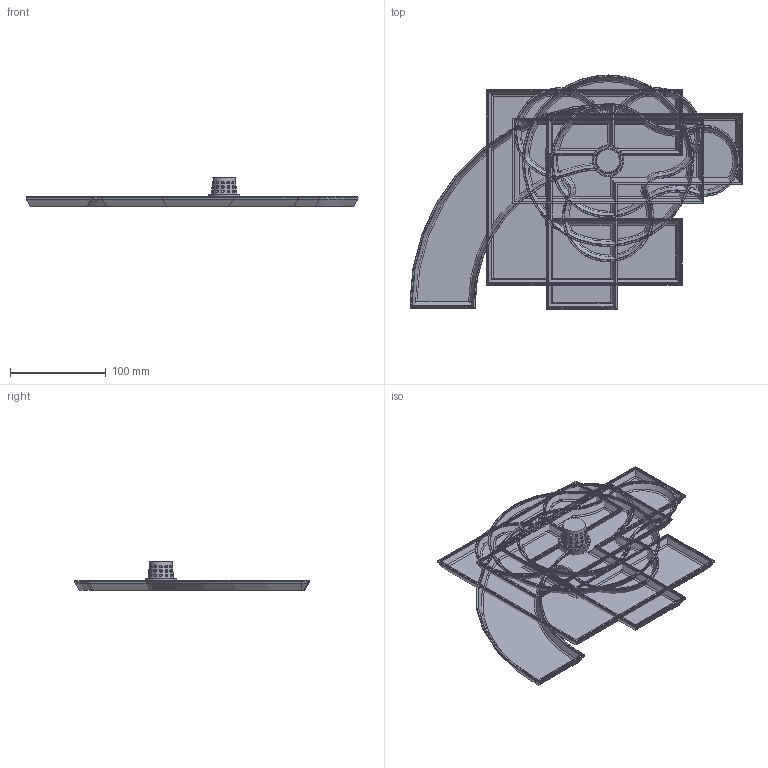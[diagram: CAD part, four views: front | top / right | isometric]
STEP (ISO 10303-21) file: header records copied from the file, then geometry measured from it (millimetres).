
FILE_DESCRIPTION(/* description */ (''),/* implementation_level */ '2;1');
FILE_NAME(/* name */ 'D:/Documents/3D/Garden/vase ladder/Cutomizers/Plates.step',/* time_stamp */ '2021-04-07T18:55:17-04:00',/* author */ (''),/* organization */ (''),/* preprocessor_version */ 'ST-DEVELOPER v18.1',/* originating_system */ 'Autodesk Translation Framework v10.6.0.1341',/* authorisation */ '');
FILE_SCHEMA (('AUTOMOTIVE_DESIGN { 1 0 10303 214 3 1 1 }'));
Length unit declared in the file: millimetre
Products named in the file (1): Tower_Plate
Bounding box: 346.19 x 244.19 x 30 mm (x, y, z)
Volume: 373457.3 mm3; surface area: 378797.9 mm2
Topology: 8 solids, 8 shells, 794 faces, 2130 edges, 1336 vertices
Faces by surface type: plane 549, cylinder 147, torus 65, cone 33
Full cylindrical faces by diameter (mm): 33 x1, 175.187 x1, 179.187 x1
Entity records: 25235 total; most frequent: DIRECTION 4745, CARTESIAN_POINT 4310, ORIENTED_EDGE 4258, EDGE_CURVE 2129, AXIS2_PLACEMENT_3D 1837, VERTEX_POINT 1336, LINE 1071, VECTOR 1071
